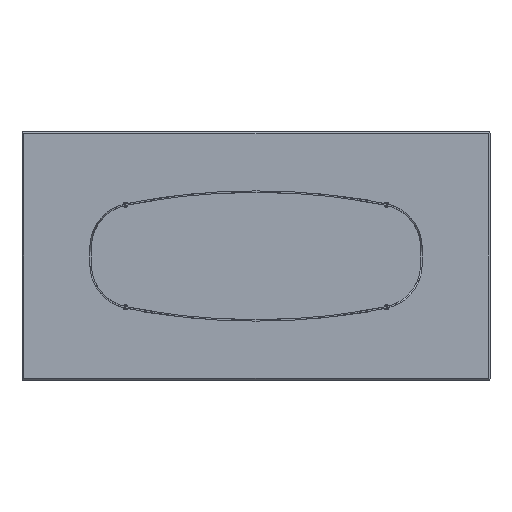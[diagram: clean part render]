
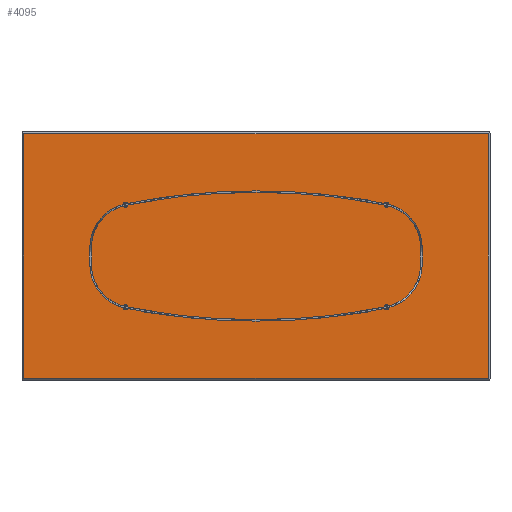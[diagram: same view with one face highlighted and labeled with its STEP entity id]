
A CAD part, front view. The second image highlights one B-rep face of the part: STEP entity #4095.
In plain terms, the highlighted planar face has unit normal (0, -1, 0).
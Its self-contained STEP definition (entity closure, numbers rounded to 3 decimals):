
#953 = EDGE_LOOP ( 'NONE', ( #7126, #7103, #9706, #1550 ) ) ;
#1104 = DIRECTION ( 'NONE',  ( 0., 0., -1. ) ) ;
#1527 = EDGE_CURVE ( 'NONE', #16522, #4875, #4520, .T. ) ;
#1550 = ORIENTED_EDGE ( 'NONE', *, *, #1527, .T. ) ;
#2032 = LINE ( 'NONE', #3266, #15815 ) ;
#2890 = CARTESIAN_POINT ( 'NONE',  ( 992., 0., -522. ) ) ;
#2923 = CARTESIAN_POINT ( 'NONE',  ( 992., 0., 522. ) ) ;
#3212 = CARTESIAN_POINT ( 'NONE',  ( 0., 0., -522. ) ) ;
#3266 = CARTESIAN_POINT ( 'NONE',  ( 0., 0., 522. ) ) ;
#3733 = LINE ( 'NONE', #10510, #15078 ) ;
#4095 = ADVANCED_FACE ( 'NONE', ( #11899 ), #12243, .F. ) ;
#4286 = EDGE_CURVE ( 'NONE', #13533, #12262, #2032, .T. ) ;
#4520 = LINE ( 'NONE', #3212, #12694 ) ;
#4875 = VERTEX_POINT ( 'NONE', #2890 ) ;
#5281 = DIRECTION ( 'NONE',  ( 0., 1., 0. ) ) ;
#5711 = DIRECTION ( 'NONE',  ( 0., 0., 1. ) ) ;
#7103 = ORIENTED_EDGE ( 'NONE', *, *, #4286, .T. ) ;
#7126 = ORIENTED_EDGE ( 'NONE', *, *, #16753, .T. ) ;
#7220 = DIRECTION ( 'NONE',  ( 1., 0., 0. ) ) ;
#7493 = CARTESIAN_POINT ( 'NONE',  ( -992., 0., -522. ) ) ;
#9706 = ORIENTED_EDGE ( 'NONE', *, *, #10544, .T. ) ;
#10510 = CARTESIAN_POINT ( 'NONE',  ( -992., 0., 0. ) ) ;
#10544 = EDGE_CURVE ( 'NONE', #12262, #16522, #3733, .T. ) ;
#10700 = VECTOR ( 'NONE', #17213, 1000. ) ;
#11769 = LINE ( 'NONE', #17117, #10700 ) ;
#11899 = FACE_OUTER_BOUND ( 'NONE', #953, .T. ) ;
#12243 = PLANE ( 'NONE',  #13299 ) ;
#12262 = VERTEX_POINT ( 'NONE', #14429 ) ;
#12694 = VECTOR ( 'NONE', #7220, 1000. ) ;
#13299 = AXIS2_PLACEMENT_3D ( 'NONE', #17245, #5281, #5711 ) ;
#13533 = VERTEX_POINT ( 'NONE', #2923 ) ;
#13978 = DIRECTION ( 'NONE',  ( -1., 0., 0. ) ) ;
#14429 = CARTESIAN_POINT ( 'NONE',  ( -992., 0., 522. ) ) ;
#15078 = VECTOR ( 'NONE', #1104, 1000. ) ;
#15815 = VECTOR ( 'NONE', #13978, 1000. ) ;
#16522 = VERTEX_POINT ( 'NONE', #7493 ) ;
#16753 = EDGE_CURVE ( 'NONE', #4875, #13533, #11769, .T. ) ;
#17117 = CARTESIAN_POINT ( 'NONE',  ( 992., 0., 0. ) ) ;
#17213 = DIRECTION ( 'NONE',  ( 0., 0., 1. ) ) ;
#17245 = CARTESIAN_POINT ( 'NONE',  ( 0., 0., 0. ) ) ;
